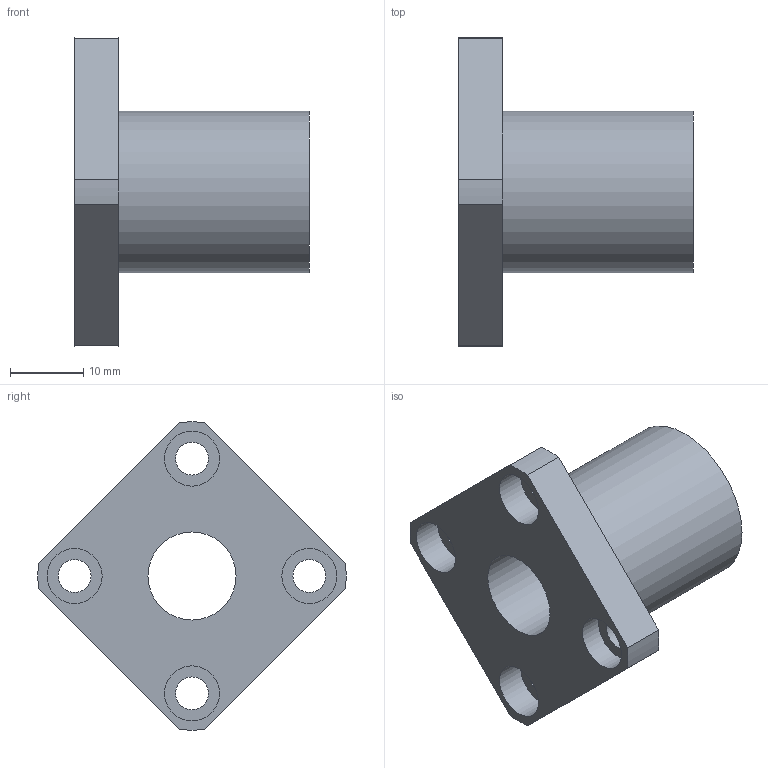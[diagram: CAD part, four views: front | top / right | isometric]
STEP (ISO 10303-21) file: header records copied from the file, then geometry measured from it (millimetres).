
FILE_DESCRIPTION( ( 'STEP AP203' ), '1' );
FILE_NAME( 'p:/temp/worker_8/temp/exporttempdir_3776_155_WxAP1/format_0/LMEK12UU.stp', '2020-05-07T05:45:46', ( 'License CC BY-ND 4.0' ), ( 'CADENAS' ), ' ', 'PARTsolutions', ' ' );
FILE_SCHEMA( ( 'CONFIG_CONTROL_DESIGN' ) );
Length unit declared in the file: millimetre
Products named in the file (1): _LMEK12UU
Bounding box: 32 x 41.98 x 41.98 mm (x, y, z)
Volume: 11525.9 mm3; surface area: 5895 mm2
Topology: 1 solids, 1 shells, 25 faces, 55 edges, 37 vertices
Faces by surface type: cylinder 14, plane 11
Full cylindrical faces by diameter (mm): 4.5 x4, 7.5 x4, 12 x1, 22 x1
Entity records: 710 total; most frequent: DIRECTION 124, CARTESIAN_POINT 106, ORIENTED_EDGE 88, AXIS2_PLACEMENT_3D 54, EDGE_LOOP 50, EDGE_CURVE 44, VERTEX_POINT 36, FACE_OUTER_BOUND 35
